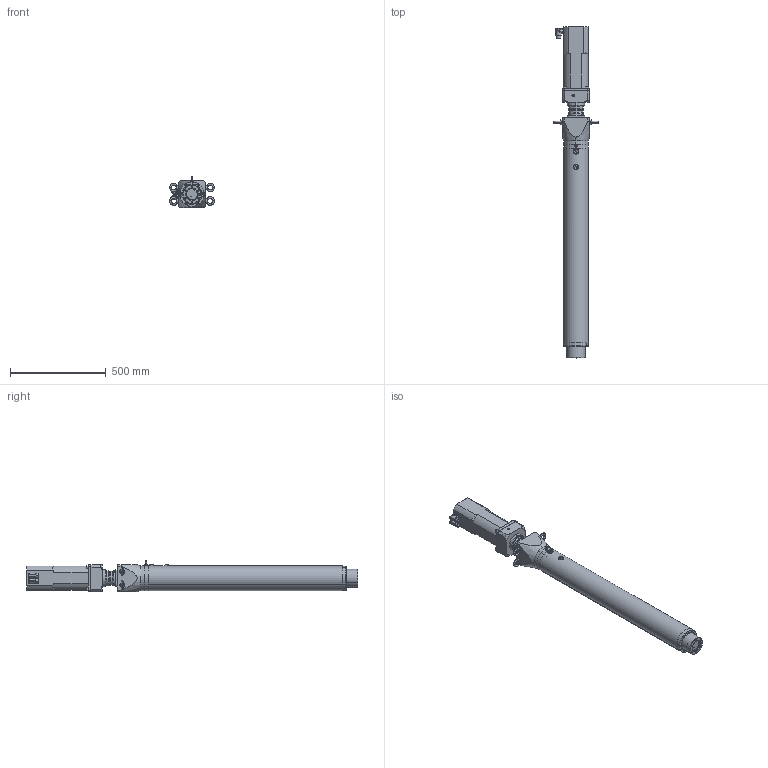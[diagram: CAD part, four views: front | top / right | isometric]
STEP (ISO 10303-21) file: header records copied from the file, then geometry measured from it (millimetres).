
FILE_DESCRIPTION (( 'STEP AP203' ), '1' );
FILE_NAME ('LN5I0300_075_025HG.STEP', '2018-01-29T09:15:29', ( '' ), ( '' ), 'SwSTEP 2.0', 'SolidWorks 2016', '' );
FILE_SCHEMA (( 'CONFIG_CONTROL_DESIGN' ));
Length unit declared in the file: millimetre
Products named in the file (1): LN5I0300_075_025HG
Bounding box: 235 x 1732.5 x 163.45 mm (x, y, z)
Volume: 18203884.7 mm3; surface area: 1875211.7 mm2
Topology: 27 solids, 27 shells, 1050 faces, 2465 edges, 1477 vertices
Faces by surface type: cylinder 415, plane 351, cone 216, torus 48, bspline 18, sphere 2
Entity records: 31628 total; most frequent: CARTESIAN_POINT 7435, DIRECTION 5367, ORIENTED_EDGE 4694, EDGE_CURVE 2347, AXIS2_PLACEMENT_3D 2117, VERTEX_POINT 1477, EDGE_LOOP 1248, VECTOR 1133
